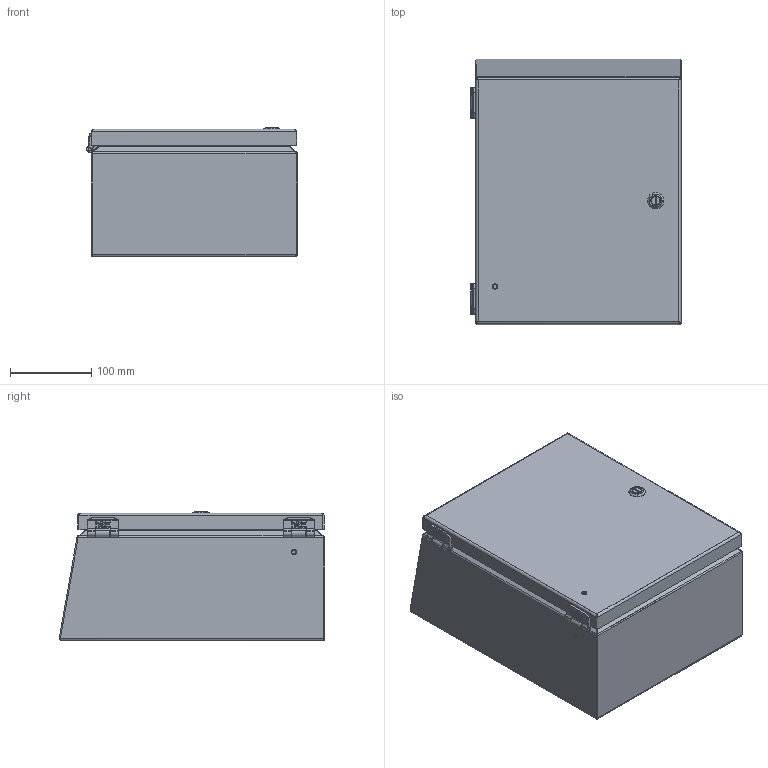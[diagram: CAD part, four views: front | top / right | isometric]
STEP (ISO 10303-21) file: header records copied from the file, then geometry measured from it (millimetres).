
FILE_DESCRIPTION((''),'2;1');
FILE_NAME('MODEL-442_ASM','2021-06-01T16:12:03',('Tony.Gonzales'),('SAGINAW CONTROL & ENGINEERING'),'CREO PARAMETRIC BY PTC INC, 2017260','CREO PARAMETRIC BY PTC INC, 2017260','');
FILE_SCHEMA(('AUTOMOTIVE_DESIGN { 1 0 10303 214 1 1 1 1 }'));
Length unit declared in the file: inch
Products named in the file (25): MODEL-442-BDY; 112643-BOX-LEAF; 112643-BOX-LEAF-STUD; 112643-BOX_ASM; 112643-DOOR-LEAF; 112643-DOOR-LEAF-STUD; 112643-DOOR_ASM; 112643-PIN; 112643_ASM; 113152; MODEL-442-DR; 100097; 100012; 112987_SHAFT; 112987_INSERT; 112984; 112987_SCREW; 112987_NUT; 112987_ASM; MODEL-442-GSKT; 120706; CH-ELJ_SUBPANEL; 102479; CH-ELJ_SUBPANEL-SUBASSEMBLY_ASM; MODEL-442_ASM
Assembly tree (35 placements, depth 4):
  MODEL-442_ASM
    MODEL-442-BDY
    112643_ASM  x2
      112643-BOX_ASM
        112643-BOX-LEAF
        112643-BOX-LEAF-STUD
      112643-DOOR_ASM
        112643-DOOR-LEAF
        112643-DOOR-LEAF-STUD
      112643-PIN
    113152  x4
    MODEL-442-DR
    100097  x2
    100012  x4
    112987_ASM
      112987_SHAFT
      112987_INSERT
      112984
      112987_SCREW
      112987_NUT
    MODEL-442-GSKT
    120706
    CH-ELJ_SUBPANEL-SUBASSEMBLY_ASM
      CH-ELJ_SUBPANEL
      102479  x4
Bounding box: 259.6 x 326.78 x 159.91 mm (x, y, z)
Volume: 716680 mm3; surface area: 883520.1 mm2
Topology: 34 solids, 36 shells, 2938 faces, 7501 edges, 4596 vertices
Faces by surface type: plane 996, cylinder 856, bspline 824, cone 126, torus 116, sphere 20
Entity records: 101572 total; most frequent: CARTESIAN_POINT 55820, ORIENTED_EDGE 6866, DIRECTION 5822, EDGE_CURVE 3433, PRESENTATION_STYLE_ASSIGNMENT 3041, STYLED_ITEM 3041, CURVE_STYLE 2784, AXIS2_PLACEMENT_3D 2152
